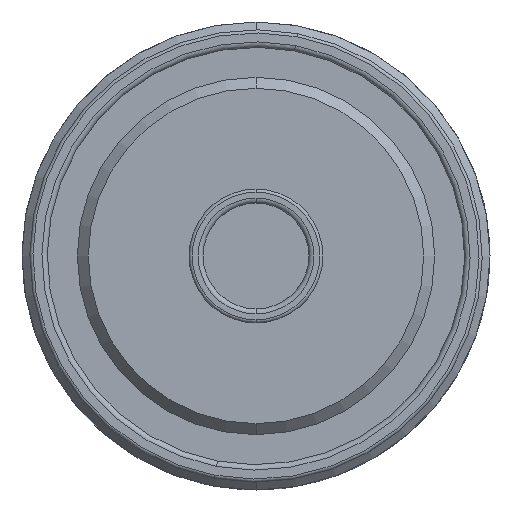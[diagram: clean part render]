
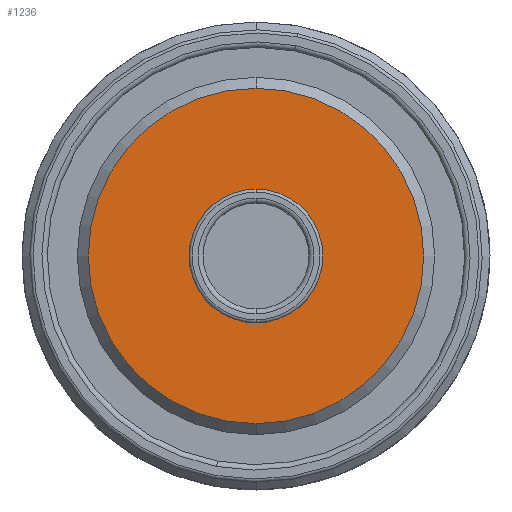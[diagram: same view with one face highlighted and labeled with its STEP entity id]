
A CAD part, front view. The second image highlights one B-rep face of the part: STEP entity #1236.
In plain terms, the highlighted planar face has unit normal (0, -1, 0).
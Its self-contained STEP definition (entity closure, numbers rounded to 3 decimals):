
#818=PLANE('',#3225);
#854=FACE_BOUND('',#1568,.T.);
#855=FACE_BOUND('',#1569,.T.);
#1236=ADVANCED_FACE('',(#854,#855),#818,.T.);
#1568=EDGE_LOOP('',(#2096,#2097));
#1569=EDGE_LOOP('',(#2098,#2099));
#2096=ORIENTED_EDGE('',*,*,#2680,.T.);
#2097=ORIENTED_EDGE('',*,*,#2677,.T.);
#2098=ORIENTED_EDGE('',*,*,#2681,.F.);
#2099=ORIENTED_EDGE('',*,*,#2682,.F.);
#2385=VERTEX_POINT('',#4818);
#2386=VERTEX_POINT('',#4819);
#2387=VERTEX_POINT('',#4826);
#2388=VERTEX_POINT('',#4827);
#2677=EDGE_CURVE('',#2385,#2386,#2896,.T.);
#2680=EDGE_CURVE('',#2386,#2385,#2897,.T.);
#2681=EDGE_CURVE('',#2387,#2388,#2898,.T.);
#2682=EDGE_CURVE('',#2388,#2387,#2899,.T.);
#2896=CIRCLE('',#3219,8.58);
#2897=CIRCLE('',#3221,8.58);
#2898=CIRCLE('',#3223,21.5);
#2899=CIRCLE('',#3224,21.5);
#3219=AXIS2_PLACEMENT_3D('',#4817,#3935,#3936);
#3221=AXIS2_PLACEMENT_3D('',#4823,#3941,#3942);
#3223=AXIS2_PLACEMENT_3D('',#4825,#3945,#3946);
#3224=AXIS2_PLACEMENT_3D('',#4828,#3947,#3948);
#3225=AXIS2_PLACEMENT_3D('',#4829,#3949,#3950);
#3935=DIRECTION('',(0.,1.,0.));
#3936=DIRECTION('',(0.,0.,1.));
#3941=DIRECTION('',(0.,1.,0.));
#3942=DIRECTION('',(0.,0.,1.));
#3945=DIRECTION('',(0.,1.,0.));
#3946=DIRECTION('',(0.,0.,1.));
#3947=DIRECTION('',(0.,1.,0.));
#3948=DIRECTION('',(0.,0.,1.));
#3949=DIRECTION('',(0.,-1.,0.));
#3950=DIRECTION('',(0.,0.,1.));
#4817=CARTESIAN_POINT('',(0.,-1.3,0.));
#4818=CARTESIAN_POINT('',(0.,-1.3,-8.58));
#4819=CARTESIAN_POINT('',(0.,-1.3,8.58));
#4823=CARTESIAN_POINT('',(0.,-1.3,0.));
#4825=CARTESIAN_POINT('',(0.,-1.3,0.));
#4826=CARTESIAN_POINT('',(0.,-1.3,21.5));
#4827=CARTESIAN_POINT('',(0.,-1.3,-21.5));
#4828=CARTESIAN_POINT('',(0.,-1.3,0.));
#4829=CARTESIAN_POINT('',(0.,-1.3,0.));
